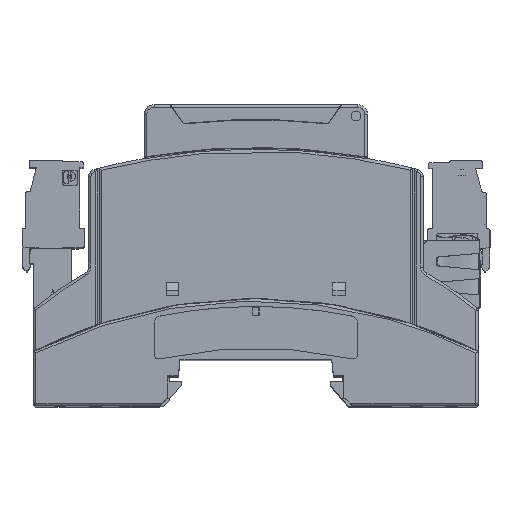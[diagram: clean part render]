
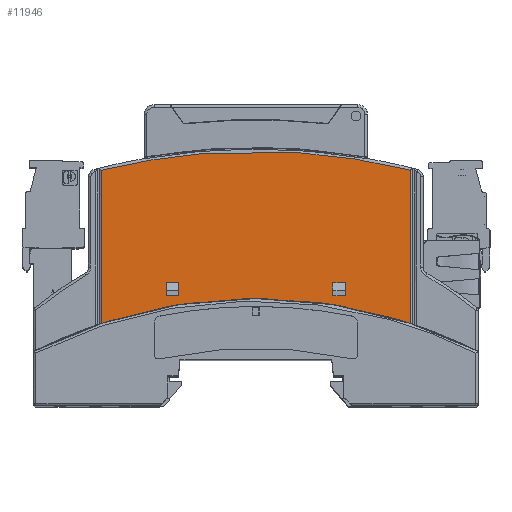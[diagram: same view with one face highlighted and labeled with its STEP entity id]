
A CAD part, top view. The second image highlights one B-rep face of the part: STEP entity #11946.
In plain terms, the highlighted planar face has unit normal (0, 0, 1).
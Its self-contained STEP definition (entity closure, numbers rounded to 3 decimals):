
#11946=ADVANCED_FACE('',(#51728,#51730,#51732),#51734,.F.);
#51728=FACE_BOUND('',#51729,.T.);
#51729=EDGE_LOOP('',(#84936,#84937,#84938,#84939));
#51730=FACE_BOUND('',#51731,.T.);
#51731=EDGE_LOOP('',(#84940,#84941,#84942,#84943));
#51732=FACE_BOUND('',#51733,.T.);
#51733=EDGE_LOOP('',(#84944,#84945,#84946,#84947));
#51734=PLANE('',#51735);
#51735=AXIS2_PLACEMENT_3D('',#51736,#51737,#51738);
#51736=CARTESIAN_POINT('',(23.996,40.289,161.7));
#51737=DIRECTION('',(0.,0.,-1.));
#51738=DIRECTION('',(0.,1.,0.));
#84936=ORIENTED_EDGE('',*,*,#107014,.F.);
#84937=ORIENTED_EDGE('',*,*,#106497,.T.);
#84938=ORIENTED_EDGE('',*,*,#107015,.F.);
#84939=ORIENTED_EDGE('',*,*,#106636,.F.);
#84940=ORIENTED_EDGE('',*,*,#107016,.F.);
#84941=ORIENTED_EDGE('',*,*,#107017,.F.);
#84942=ORIENTED_EDGE('',*,*,#107018,.F.);
#84943=ORIENTED_EDGE('',*,*,#107019,.F.);
#84944=ORIENTED_EDGE('',*,*,#107020,.F.);
#84945=ORIENTED_EDGE('',*,*,#107021,.F.);
#84946=ORIENTED_EDGE('',*,*,#107022,.F.);
#84947=ORIENTED_EDGE('',*,*,#107023,.F.);
#106497=EDGE_CURVE('',#121673,#121671,#121674,.T.);
#106636=EDGE_CURVE('',#121925,#121927,#121928,.T.);
#107014=EDGE_CURVE('',#121673,#121925,#122497,.T.);
#107015=EDGE_CURVE('',#121927,#121671,#122498,.T.);
#107016=EDGE_CURVE('',#122499,#122500,#122501,.T.);
#107017=EDGE_CURVE('',#122502,#122499,#122503,.T.);
#107018=EDGE_CURVE('',#122504,#122502,#122505,.T.);
#107019=EDGE_CURVE('',#122500,#122504,#122506,.T.);
#107020=EDGE_CURVE('',#122507,#122508,#122509,.T.);
#107021=EDGE_CURVE('',#122510,#122507,#122511,.T.);
#107022=EDGE_CURVE('',#122512,#122510,#122513,.T.);
#107023=EDGE_CURVE('',#122508,#122512,#122514,.T.);
#121671=VERTEX_POINT('',#150464);
#121673=VERTEX_POINT('',#150480);
#121674=CIRCLE('',#150481,99.5);
#121925=VERTEX_POINT('',#151134);
#121927=VERTEX_POINT('',#151160);
#121928=B_SPLINE_CURVE_WITH_KNOTS('',3,
(#151161,#151162,#151163,#151164,#151165,#151166,#151167,#151168,#151169,#151170),
.UNSPECIFIED.,.F.,.F.,
(4,2,2,2,4),
(0.,0.26,0.517,0.774,1.),
.UNSPECIFIED.);
#122497=LINE('',#152641,#152642);
#122498=LINE('',#152644,#152645);
#122499=VERTEX_POINT('',#152647);
#122500=VERTEX_POINT('',#152648);
#122501=LINE('',#152649,#152650);
#122502=VERTEX_POINT('',#152652);
#122503=LINE('',#152653,#152654);
#122504=VERTEX_POINT('',#152656);
#122505=LINE('',#152657,#152658);
#122506=LINE('',#152660,#152661);
#122507=VERTEX_POINT('',#152663);
#122508=VERTEX_POINT('',#152664);
#122509=LINE('',#152665,#152666);
#122510=VERTEX_POINT('',#152668);
#122511=LINE('',#152669,#152670);
#122512=VERTEX_POINT('',#152672);
#122513=LINE('',#152673,#152674);
#122514=LINE('',#152676,#152677);
#150464=CARTESIAN_POINT('',(36.85,12.882,161.7));
#150480=CARTESIAN_POINT('',(-25.55,12.882,161.7));
#150481=AXIS2_PLACEMENT_3D('',#150482,#150483,#150484);
#150482=CARTESIAN_POINT('',(5.65,-81.6,161.7));
#150483=DIRECTION('',(0.,0.,-1.));
#150484=DIRECTION('',(-0.314,0.95,0.));
#151134=CARTESIAN_POINT('',(-25.55,43.776,161.7));
#151160=CARTESIAN_POINT('',(36.85,43.776,161.7));
#151161=CARTESIAN_POINT('',(-25.55,43.776,161.7));
#151162=CARTESIAN_POINT('',(-20.226,44.925,161.7));
#151163=CARTESIAN_POINT('',(-14.901,46.074,161.7));
#151164=CARTESIAN_POINT('',(-4.131,47.339,161.7));
#151165=CARTESIAN_POINT('',(1.346,47.641,161.7));
#151166=CARTESIAN_POINT('',(12.146,47.549,161.7));
#151167=CARTESIAN_POINT('',(17.593,47.156,161.7));
#151168=CARTESIAN_POINT('',(27.61,45.81,161.7));
#151169=CARTESIAN_POINT('',(32.23,44.793,161.7));
#151170=CARTESIAN_POINT('',(36.85,43.776,161.7));
#152641=CARTESIAN_POINT('',(-25.55,12.882,161.7));
#152642=VECTOR('',#152643,1.);
#152643=DIRECTION('',(0.,1.,0.));
#152644=CARTESIAN_POINT('',(36.85,43.776,161.7));
#152645=VECTOR('',#152646,1.);
#152646=DIRECTION('',(0.,-1.,0.));
#152647=CARTESIAN_POINT('',(-12.45,21.1,161.7));
#152648=CARTESIAN_POINT('',(-12.45,18.5,161.7));
#152649=CARTESIAN_POINT('',(-12.45,21.1,161.7));
#152650=VECTOR('',#152651,1.);
#152651=DIRECTION('',(0.,-1.,0.));
#152652=CARTESIAN_POINT('',(-9.85,21.1,161.7));
#152653=CARTESIAN_POINT('',(-9.85,21.1,161.7));
#152654=VECTOR('',#152655,1.);
#152655=DIRECTION('',(-1.,0.,0.));
#152656=CARTESIAN_POINT('',(-9.85,18.5,161.7));
#152657=CARTESIAN_POINT('',(-9.85,18.5,161.7));
#152658=VECTOR('',#152659,1.);
#152659=DIRECTION('',(0.,1.,0.));
#152660=CARTESIAN_POINT('',(-12.45,18.5,161.7));
#152661=VECTOR('',#152662,1.);
#152662=DIRECTION('',(1.,0.,0.));
#152663=CARTESIAN_POINT('',(23.75,21.1,161.7));
#152664=CARTESIAN_POINT('',(21.15,21.1,161.7));
#152665=CARTESIAN_POINT('',(23.75,21.1,161.7));
#152666=VECTOR('',#152667,1.);
#152667=DIRECTION('',(-1.,0.,0.));
#152668=CARTESIAN_POINT('',(23.75,18.5,161.7));
#152669=CARTESIAN_POINT('',(23.75,18.5,161.7));
#152670=VECTOR('',#152671,1.);
#152671=DIRECTION('',(0.,1.,0.));
#152672=CARTESIAN_POINT('',(21.15,18.5,161.7));
#152673=CARTESIAN_POINT('',(21.15,18.5,161.7));
#152674=VECTOR('',#152675,1.);
#152675=DIRECTION('',(1.,0.,0.));
#152676=CARTESIAN_POINT('',(21.15,21.1,161.7));
#152677=VECTOR('',#152678,1.);
#152678=DIRECTION('',(0.,-1.,0.));
